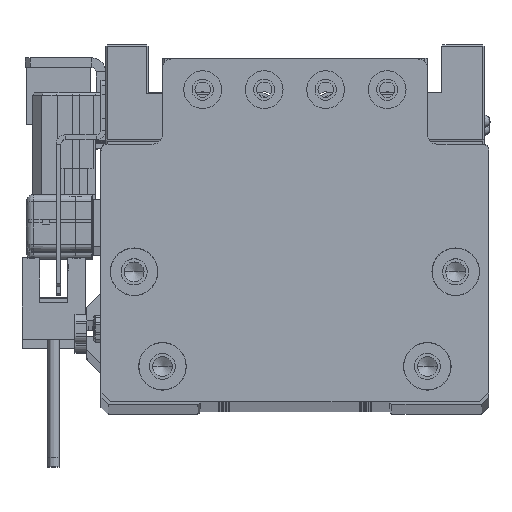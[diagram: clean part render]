
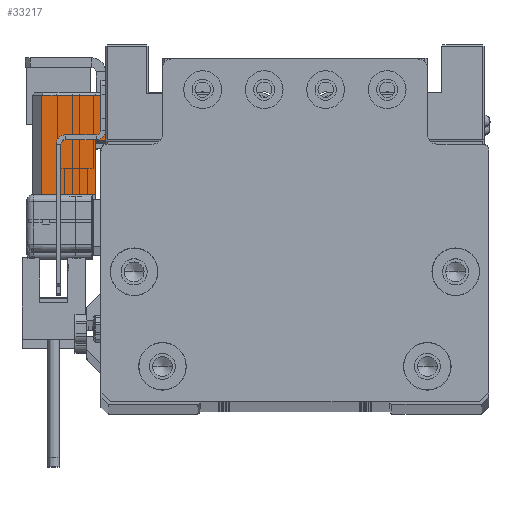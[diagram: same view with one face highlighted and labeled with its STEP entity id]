
A CAD part, top view. The second image highlights one B-rep face of the part: STEP entity #33217.
In plain terms, the highlighted planar face has unit normal (0, 0, 1) as drawn and (1, 0, 0) by its records, which use the part's own axes.
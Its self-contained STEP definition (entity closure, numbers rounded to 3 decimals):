
#1140 = LINE ( 'NONE', #25637, #30236 ) ;
#1336 = ORIENTED_EDGE ( 'NONE', *, *, #42093, .T. ) ;
#2506 = CARTESIAN_POINT ( 'NONE',  ( 17., -10.75, -15.5 ) ) ;
#3249 = DIRECTION ( 'NONE',  ( 0., 0., 1. ) ) ;
#3438 = VECTOR ( 'NONE', #3249, 1000. ) ;
#5380 = EDGE_CURVE ( 'NONE', #63266, #45637, #53798, .T. ) ;
#10079 = ORIENTED_EDGE ( 'NONE', *, *, #37172, .T. ) ;
#10315 = FACE_OUTER_BOUND ( 'NONE', #38096, .T. ) ;
#14965 = DIRECTION ( 'NONE',  ( 0., -1., 0. ) ) ;
#16229 = CARTESIAN_POINT ( 'NONE',  ( 17., 10.25, -2. ) ) ;
#16947 = CARTESIAN_POINT ( 'NONE',  ( 17., 0.75, -13.3 ) ) ;
#16996 = DIRECTION ( 'NONE',  ( 0., 0., 1. ) ) ;
#20042 = CARTESIAN_POINT ( 'NONE',  ( 17., 0.75, -15.5 ) ) ;
#22857 = VERTEX_POINT ( 'NONE', #27487 ) ;
#22916 = LINE ( 'NONE', #32924, #3438 ) ;
#23537 = CARTESIAN_POINT ( 'NONE',  ( 17., 10.25, -15.5 ) ) ;
#25637 = CARTESIAN_POINT ( 'NONE',  ( 17., -10.75, -2. ) ) ;
#26715 = VECTOR ( 'NONE', #58941, 1000. ) ;
#27487 = CARTESIAN_POINT ( 'NONE',  ( 17., -10.75, -2. ) ) ;
#28501 = VERTEX_POINT ( 'NONE', #20042 ) ;
#28810 = CARTESIAN_POINT ( 'NONE',  ( 17., -10.75, -15.5 ) ) ;
#30236 = VECTOR ( 'NONE', #14965, 1000. ) ;
#32924 = CARTESIAN_POINT ( 'NONE',  ( 17., 0.75, -15.5 ) ) ;
#33217 = ADVANCED_FACE ( 'NONE', ( #10315 ), #49618, .T. ) ;
#35783 = DIRECTION ( 'NONE',  ( 0., 0., -1. ) ) ;
#36818 = LINE ( 'NONE', #51313, #52129 ) ;
#37172 = EDGE_CURVE ( 'NONE', #45637, #22857, #1140, .T. ) ;
#38096 = EDGE_LOOP ( 'NONE', ( #1336, #62879, #10079, #43081, #39049, #53060 ) ) ;
#39049 = ORIENTED_EDGE ( 'NONE', *, *, #41159, .F. ) ;
#39487 = EDGE_CURVE ( 'NONE', #61418, #22857, #50542, .T. ) ;
#40603 = CARTESIAN_POINT ( 'NONE',  ( 17., -10.75, -15.5 ) ) ;
#41159 = EDGE_CURVE ( 'NONE', #44027, #61418, #36818, .T. ) ;
#42093 = EDGE_CURVE ( 'NONE', #28501, #63266, #63549, .T. ) ;
#42572 = DIRECTION ( 'NONE',  ( 0., -1., 0. ) ) ;
#43081 = ORIENTED_EDGE ( 'NONE', *, *, #39487, .F. ) ;
#44027 = VERTEX_POINT ( 'NONE', #16947 ) ;
#45637 = VERTEX_POINT ( 'NONE', #16229 ) ;
#46223 = AXIS2_PLACEMENT_3D ( 'NONE', #40603, #59924, #35783 ) ;
#48204 = CARTESIAN_POINT ( 'NONE',  ( 17., -10.75, -13.3 ) ) ;
#48427 = DIRECTION ( 'NONE',  ( 0., 1., 0. ) ) ;
#49460 = EDGE_CURVE ( 'NONE', #28501, #44027, #22916, .T. ) ;
#49618 = PLANE ( 'NONE',  #46223 ) ;
#50542 = LINE ( 'NONE', #2506, #50909 ) ;
#50909 = VECTOR ( 'NONE', #16996, 1000. ) ;
#51313 = CARTESIAN_POINT ( 'NONE',  ( 17., -10.75, -13.3 ) ) ;
#52129 = VECTOR ( 'NONE', #42572, 1000. ) ;
#52772 = CARTESIAN_POINT ( 'NONE',  ( 17., 10.25, -15.5 ) ) ;
#53060 = ORIENTED_EDGE ( 'NONE', *, *, #49460, .F. ) ;
#53798 = LINE ( 'NONE', #23537, #26715 ) ;
#57385 = VECTOR ( 'NONE', #48427, 1000. ) ;
#58941 = DIRECTION ( 'NONE',  ( 0., 0., 1. ) ) ;
#59924 = DIRECTION ( 'NONE',  ( 1., 0., 0. ) ) ;
#61418 = VERTEX_POINT ( 'NONE', #48204 ) ;
#62879 = ORIENTED_EDGE ( 'NONE', *, *, #5380, .T. ) ;
#63266 = VERTEX_POINT ( 'NONE', #52772 ) ;
#63549 = LINE ( 'NONE', #28810, #57385 ) ;
